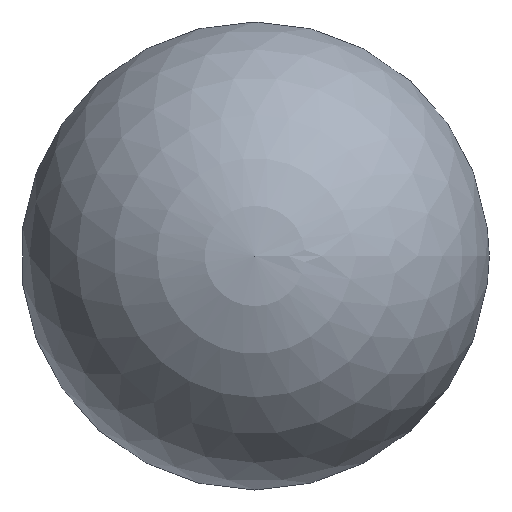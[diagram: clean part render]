
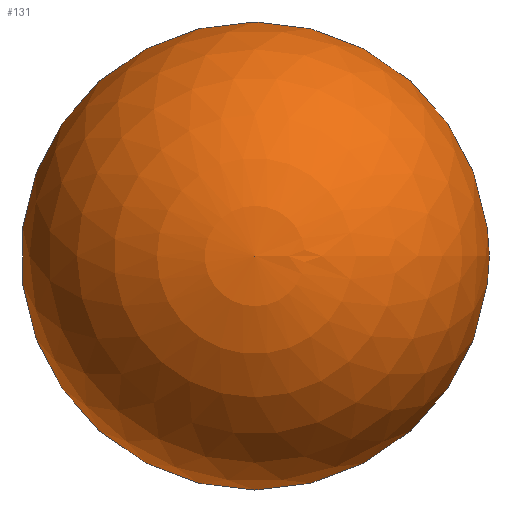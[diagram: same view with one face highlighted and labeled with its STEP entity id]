
A CAD part, front view. The second image highlights one B-rep face of the part: STEP entity #131.
In plain terms, the highlighted spherical face has radius 25 mm.
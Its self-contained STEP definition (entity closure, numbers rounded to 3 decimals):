
#131=ADVANCED_FACE('',(#157),#158,.T.);
#157=FACE_OUTER_BOUND('',#255,.T.);
#158=SPHERICAL_SURFACE('',#256,25.0);
#255=EDGE_LOOP('',(#299));
#256=AXIS2_PLACEMENT_3D('',#300,#301,#302);
#299=ORIENTED_EDGE('',*,*,#360,.T.);
#300=CARTESIAN_POINT('',(0.0,0.0,0.0));
#301=DIRECTION('',(0.0,-1.0,0.0));
#302=DIRECTION('',(1.0,0.0,0.0));
#360=EDGE_CURVE('',#389,#389,#390,.T.);
#389=VERTEX_POINT('',#408);
#390=CIRCLE('',#409,24.696);
#408=CARTESIAN_POINT('',(0.0,3.889,-24.696));
#409=AXIS2_PLACEMENT_3D('',#436,#437,#438);
#436=CARTESIAN_POINT('',(0.0,3.889,0.0));
#437=DIRECTION('',(0.0,-1.0,0.0));
#438=DIRECTION('',(0.0,0.0,-1.0));
